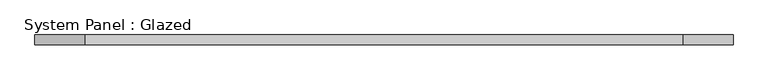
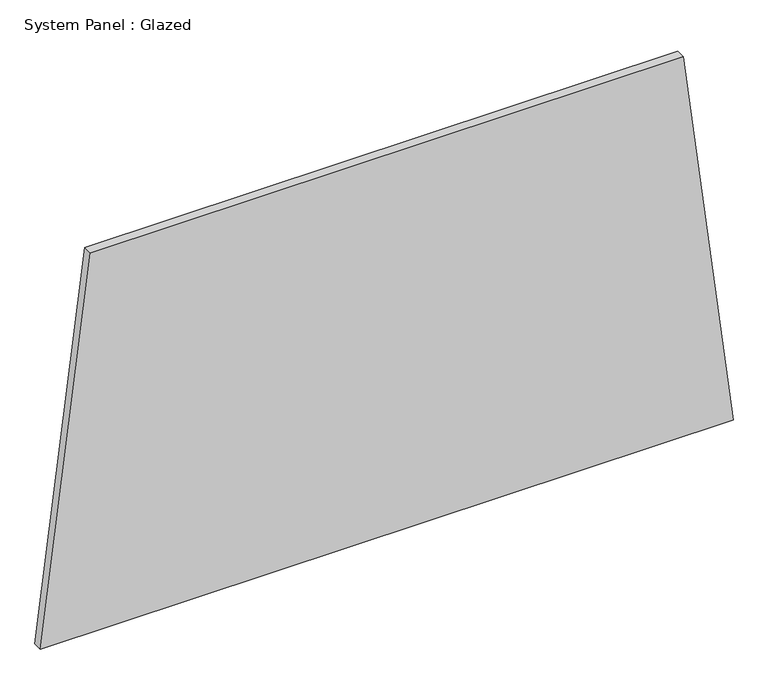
"""IFC4 building model written with IfcOpenShell, lengths in millimetres: plate geometry, System Panel : Glazed."""

import ifcopenshell
import ifcopenshell.guid

model = None  # the IFC model being written
_history = None  # IfcOwnerHistory: only IFC2X3 demands one
_inside = {}  # id of a spatial element -> (the spatial element, [elements in it])
_under = {}  # id of a project, library or spatial element -> (it, [spatial elements below it])
_declared = {}  # id of a project -> (the project, [libraries it declares])
_typed = {}  # id of a type object -> (the type object, [elements of that type])
_made_of = {}  # id of a material, layer set ... -> (it, [elements and type objects made of it])


def new_model(schema):
    """Start an empty IFC model of exactly this schema.

    Asked for "IFC4X3", IfcOpenShell would pick the latest addendum, in which some entities
    have other attributes; the version numbers below select the first issue.
    IFC2X3 requires an IfcOwnerHistory on every rooted entity: one is made here for all.
    """
    global model, _history
    if schema == "IFC4X3":
        model = ifcopenshell.file(schema_version=(4, 3, 0, 0))
    else:
        model = ifcopenshell.file(schema=schema)
    _inside.clear()
    _under.clear()
    _declared.clear()
    _typed.clear()
    _made_of.clear()
    _history = None
    if model.schema == "IFC2X3":
        org = make("IfcOrganization", Name="unknown")
        user = make(
            "IfcPersonAndOrganization",
            ThePerson=make("IfcPerson", FamilyName="unknown"),
            TheOrganization=org,
        )
        app = make(
            "IfcApplication",
            ApplicationDeveloper=org,
            Version="unknown",
            ApplicationFullName="unknown",
            ApplicationIdentifier="unknown",
        )
        _history = make(
            "IfcOwnerHistory",
            OwningUser=user,
            OwningApplication=app,
            ChangeAction="ADDED",
            CreationDate=0,
        )
    return model


def make(cls, **values):
    """One entity of the class cls with the attributes given. An attribute that is None is left unset."""
    return model.create_entity(
        cls, **{name: value for name, value in values.items() if value is not None}
    )


def rooted(cls, **values):
    """An entity with a GlobalId (a new one), such as an element, a storey or a relation."""
    return make(cls, GlobalId=ifcopenshell.guid.new(), OwnerHistory=_history, **values)


def si_unit(unit_type, name, prefix=None):
    """IfcSIUnit, for example si_unit("LENGTHUNIT", "METRE", prefix="MILLI")."""
    return make("IfcSIUnit", UnitType=unit_type, Prefix=prefix, Name=name)


def assignment(units):
    """IfcUnitAssignment: the units of a project."""
    return None if units is None else make("IfcUnitAssignment", Units=units)


def point(xyz):
    """IfcCartesianPoint."""
    return None if xyz is None else make("IfcCartesianPoint", Coordinates=xyz)


def direction(xyz):
    """IfcDirection."""
    return None if xyz is None else make("IfcDirection", DirectionRatios=xyz)


def frame(location, z_axis=None, x_axis=None):
    """IfcAxis2Placement3D, a coordinate frame: its origin and axes. An axis left out is left unset."""
    return make(
        "IfcAxis2Placement3D",
        Location=point(location),
        Axis=direction(z_axis),
        RefDirection=direction(x_axis),
    )


def origin():
    """The frame at (0, 0, 0) with its axes left unset."""
    return frame((0.0, 0.0, 0.0))


def place(relative_to, where):
    """IfcLocalPlacement: puts the frame where relative to a parent placement (None: the world)."""
    return make(
        "IfcLocalPlacement", PlacementRelTo=relative_to, RelativePlacement=where
    )


def context(
    kind, dimensions, precision=None, world=None, true_north=None, identifier=None
):
    """IfcGeometricRepresentationContext, for example the 3D "Model" context."""
    return make(
        "IfcGeometricRepresentationContext",
        ContextIdentifier=identifier,
        ContextType=kind,
        CoordinateSpaceDimension=dimensions,
        Precision=precision,
        WorldCoordinateSystem=world,
        TrueNorth=true_north,
    )


def project(units=None, contexts=None):
    """IfcProject with its units and contexts."""
    return rooted(
        "IfcProject",
        Name="project",
        RepresentationContexts=contexts,
        UnitsInContext=assignment(units),
    )


def spatial(cls, under=None, at=None, **own):
    """A site, building, storey or space (cls), placed at a placement, below another one or the project."""
    s = rooted(cls, ObjectPlacement=at, **own)
    if under is not None:
        _under.setdefault(under.id(), (under, []))[1].append(s)
    return s


def polyline(points):
    """IfcPolyline through the points."""
    return make("IfcPolyline", Points=[point(p) for p in points])


def outline(outer, holes=None, kind="AREA"):
    """IfcArbitraryClosedProfileDef: a profile drawn as a closed curve; with holes, ...WithVoids."""
    if holes is None:
        return make("IfcArbitraryClosedProfileDef", ProfileType=kind, OuterCurve=outer)
    return make(
        "IfcArbitraryProfileDefWithVoids",
        ProfileType=kind,
        OuterCurve=outer,
        InnerCurves=holes,
    )


def extrude(swept, where, along, depth):
    """IfcExtrudedAreaSolid: the profile swept, set in the frame where, extruded along a direction by depth."""
    return make(
        "IfcExtrudedAreaSolid",
        SweptArea=swept,
        Position=where,
        ExtrudedDirection=direction(along),
        Depth=depth,
    )


def shape(context_of_items, identifier, shape_type, items):
    """IfcShapeRepresentation: the items that make up one representation, for example the "Body"."""
    return make(
        "IfcShapeRepresentation",
        ContextOfItems=context_of_items,
        RepresentationIdentifier=identifier,
        RepresentationType=shape_type,
        Items=items,
    )


def source(mapping_origin, context_of_items, identifier, shape_type, items):
    """IfcRepresentationMap: a shape defined once, which mapped items show again and again."""
    return make(
        "IfcRepresentationMap",
        MappingOrigin=mapping_origin,
        MappedRepresentation=shape(context_of_items, identifier, shape_type, items),
    )


def transform(
    local_origin,
    x_axis=None,
    y_axis=None,
    z_axis=None,
    scale=None,
    scale2=None,
    scale3=None,
    uniform=True,
):
    """IfcCartesianTransformationOperator3D, or its non-uniform kind. x_axis, y_axis, z_axis: its Axis1, 2, 3."""
    if uniform:
        return make(
            "IfcCartesianTransformationOperator3D",
            Axis1=direction(x_axis),
            Axis2=direction(y_axis),
            LocalOrigin=point(local_origin),
            Scale=scale,
            Axis3=direction(z_axis),
        )
    return make(
        "IfcCartesianTransformationOperator3DnonUniform",
        Axis1=direction(x_axis),
        Axis2=direction(y_axis),
        LocalOrigin=point(local_origin),
        Scale=scale,
        Axis3=direction(z_axis),
        Scale2=scale2,
        Scale3=scale3,
    )


def mapped(mapping_source, mapping_target):
    """IfcMappedItem: shows the shape of a source again, moved by a transform."""
    return make(
        "IfcMappedItem", MappingSource=mapping_source, MappingTarget=mapping_target
    )


def made_of(thing, what):
    """Note that an element or type object is made of a material, layer set ...; save() writes the relation."""
    if what is not None:
        _made_of.setdefault(what.id(), (what, []))[1].append(thing)
    return thing


def element(
    cls,
    number,
    at=None,
    inside=None,
    cuts=None,
    type_object=None,
    material=None,
    context=None,
    identifier="Body",
    shape_type=None,
    held_by="IfcProductDefinitionShape",
    body=None,
    shapes=None,
    **own,
):
    """One element of the class cls, such as IfcWall. Its Tag is "e" and its number.

    at: its placement. inside: the storey or other place that contains it. cuts: it is an
    opening in that element (IfcRelVoidsElement). A single representation is given by context,
    identifier, shape_type and body (its items); several are given by shapes. held_by: the class
    of the entity that holds the representations. save() writes the other relations.
    """
    e = rooted(cls, Tag="e%d" % number, ObjectPlacement=at, **own)
    if body is not None:
        shapes = [shape(context, identifier, shape_type, body)]
    if shapes is not None:
        e.Representation = make(held_by, Representations=shapes)
    if inside is not None:
        _inside.setdefault(inside.id(), (inside, []))[1].append(e)
    if cuts is not None:
        rooted(
            "IfcRelVoidsElement", RelatingBuildingElement=cuts, RelatedOpeningElement=e
        )
    if type_object is not None:
        _typed.setdefault(type_object.id(), (type_object, []))[1].append(e)
    return made_of(e, material)


def aggregate(whole, parts):
    """IfcRelAggregates: a whole, such as a stair, and the parts it consists of."""
    return rooted("IfcRelAggregates", RelatingObject=whole, RelatedObjects=parts)


def save(model, path):
    """Write the relations noted so far, then the file.

    IfcRelAggregates (storeys below a building ...), IfcRelContainedInSpatialStructure (elements
    in a storey), IfcRelDefinesByType, IfcRelAssociatesMaterial and IfcRelDeclares: one each for
    every whole, place, type object, material and project.
    """
    for whole, parts in _under.values():
        aggregate(whole, parts)
    for where, things in _inside.values():
        rooted(
            "IfcRelContainedInSpatialStructure",
            RelatedElements=things,
            RelatingStructure=where,
        )
    for kind, things in _typed.values():
        rooted("IfcRelDefinesByType", RelatedObjects=things, RelatingType=kind)
    for what, things in _made_of.values():
        rooted("IfcRelAssociatesMaterial", RelatedObjects=things, RelatingMaterial=what)
    for by, libraries in _declared.values():
        rooted("IfcRelDeclares", RelatingContext=by, RelatedDefinitions=libraries)
    model.write(path)


def system_panel_glazed_a49b1de4(model_context):
    return source(origin(), model_context, "Body", "SweptSolid", [
        extrude(outline(polyline([(0.0, -913.0817528), (0.0, 913.0817528), (1058.6347391, 781.3444033), (1058.6347391, -781.3444033), (0.0, -913.0817528)])), frame((0.0, -44.45, 0.0), z_axis=(0.0, 1.0, 0.0), x_axis=(0.0, 0.0, 1.0)), (0.0, 0.0, 1.0), 25.4),
    ])


if __name__ == "__main__":
    model = new_model("IFC4")
    model_context = context("Model", 3, world=origin())
    ifc_project = project(units=[si_unit("LENGTHUNIT", "METRE", prefix="MILLI")], contexts=[model_context])
    site = spatial("IfcSite", under=ifc_project)
    building = spatial("IfcBuilding", under=site)
    placement = place(None, origin())
    system_panel_glazed_shape = system_panel_glazed_a49b1de4(model_context)
    element("IfcPlate", 1, ObjectType="System Panel : Glazed", at=placement, inside=building, context=model_context, shape_type="MappedRepresentation", body=[
        mapped(system_panel_glazed_shape, transform((0.0, 0.0, 0.0), x_axis=(1.0, 0.0, 0.0), y_axis=(0.0, 1.0, 0.0), z_axis=(0.0, 0.0, 1.0))),
    ])
    save(model, "model.ifc")
